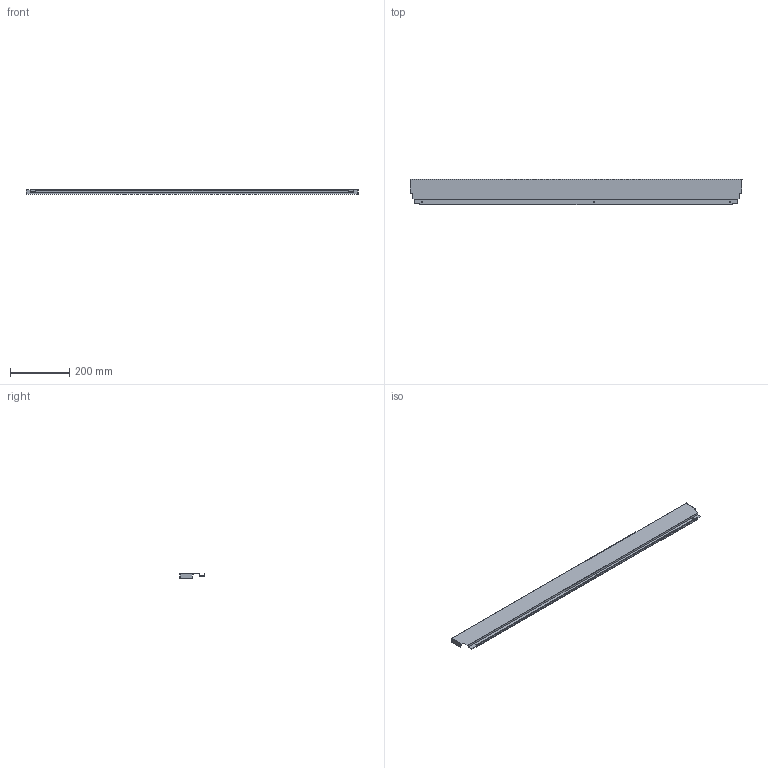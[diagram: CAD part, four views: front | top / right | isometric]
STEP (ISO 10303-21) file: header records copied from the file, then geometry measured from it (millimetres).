
FILE_DESCRIPTION (( 'STEP AP214' ), '1' );
FILE_NAME ('_DWD_XP Stahlrückwand_H86_KAB1200_S17.step', '2010-07-08T12:10:15', ( 'grass' ), ( '' ), 'SwSTEP 2.0', 'SolidWorks 2010', '' );
FILE_SCHEMA (( 'AUTOMOTIVE_DESIGN' ));
Length unit declared in the file: millimetre
Products named in the file (1): _DWD_XP Stahlrückwand_H86_KAB1200_S17
Bounding box: 1117 x 85.79 x 16 mm (x, y, z)
Volume: 120084.4 mm3; surface area: 260162.4 mm2
Topology: 1 solids, 1 shells, 50 faces, 144 edges, 96 vertices
Faces by surface type: plane 44, cylinder 6
Entity records: 1666 total; most frequent: CARTESIAN_POINT 291, ORIENTED_EDGE 288, DIRECTION 258, EDGE_CURVE 144, VECTOR 132, LINE 132, VERTEX_POINT 96, AXIS2_PLACEMENT_3D 63
